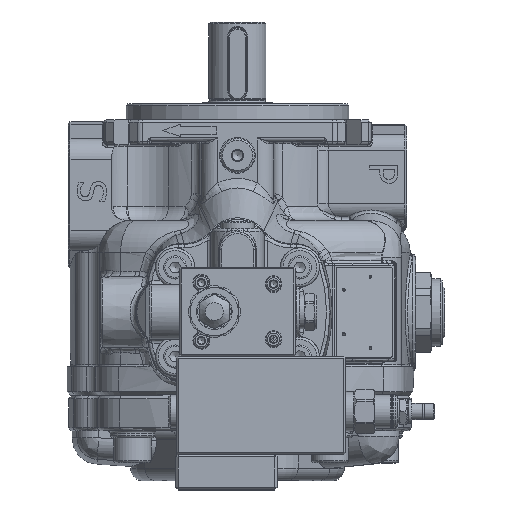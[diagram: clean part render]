
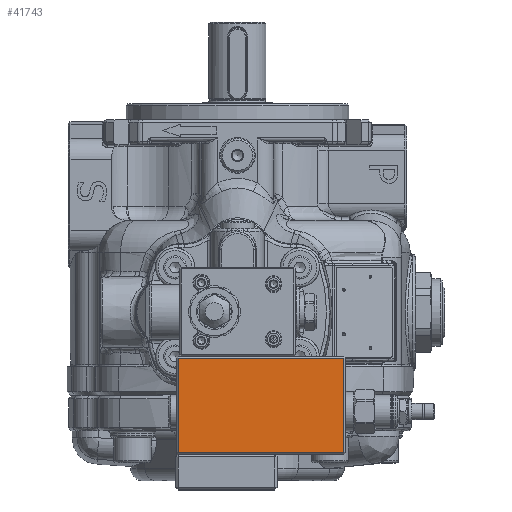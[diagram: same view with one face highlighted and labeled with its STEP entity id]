
A CAD part, top view. The second image highlights one B-rep face of the part: STEP entity #41743.
In plain terms, the highlighted planar face has unit normal (0, 0, 1).
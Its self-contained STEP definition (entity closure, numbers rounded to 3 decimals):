
#3818=LINE('',#83100,#6289);
#3819=LINE('',#83102,#6290);
#3820=LINE('',#83104,#6291);
#3821=LINE('',#83105,#6292);
#6289=VECTOR('',#55205,10.);
#6290=VECTOR('',#55206,10.);
#6291=VECTOR('',#55207,10.);
#6292=VECTOR('',#55208,10.);
#7489=PLANE('',#45596);
#9663=FACE_OUTER_BOUND('',#12109,.T.);
#12109=EDGE_LOOP('',(#35010,#35011,#35012,#35013));
#18661=VERTEX_POINT('',#83098);
#18662=VERTEX_POINT('',#83099);
#18663=VERTEX_POINT('',#83101);
#18664=VERTEX_POINT('',#83103);
#24264=EDGE_CURVE('',#18661,#18662,#3818,.T.);
#24265=EDGE_CURVE('',#18663,#18661,#3819,.T.);
#24266=EDGE_CURVE('',#18664,#18663,#3820,.T.);
#24267=EDGE_CURVE('',#18662,#18664,#3821,.T.);
#35010=ORIENTED_EDGE('',*,*,#24264,.F.);
#35011=ORIENTED_EDGE('',*,*,#24265,.F.);
#35012=ORIENTED_EDGE('',*,*,#24266,.F.);
#35013=ORIENTED_EDGE('',*,*,#24267,.F.);
#41743=ADVANCED_FACE('',(#9663),#7489,.T.);
#45596=AXIS2_PLACEMENT_3D('',#83097,#55203,#55204);
#55203=DIRECTION('center_axis',(0.,0.,
1.));
#55204=DIRECTION('ref_axis',(0.,1.,0.));
#55205=DIRECTION('',(-1.,0.,0.));
#55206=DIRECTION('',(0.,-1.,0.));
#55207=DIRECTION('',(1.,0.,0.));
#55208=DIRECTION('',(0.,1.,0.));
#83097=CARTESIAN_POINT('Origin',(57.208,-116.222,217.023));
#83098=CARTESIAN_POINT('',(56.208,-115.222,217.023));
#83099=CARTESIAN_POINT('',(-36.792,-115.222,217.023));
#83100=CARTESIAN_POINT('',(33.458,-115.222,217.023));
#83101=CARTESIAN_POINT('',(56.208,-62.222,217.023));
#83102=CARTESIAN_POINT('',(56.208,-116.222,217.023));
#83103=CARTESIAN_POINT('',(-36.792,-62.222,217.023));
#83104=CARTESIAN_POINT('',(33.458,-62.222,217.023));
#83105=CARTESIAN_POINT('',(-36.792,-116.222,217.023));
